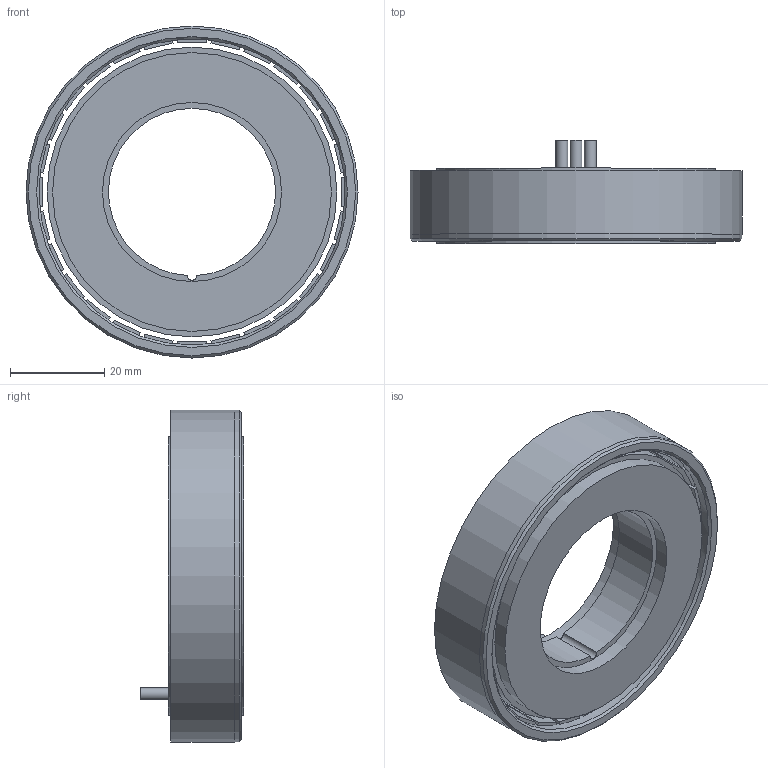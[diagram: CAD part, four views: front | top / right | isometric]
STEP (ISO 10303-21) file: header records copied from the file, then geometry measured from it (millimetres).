
FILE_DESCRIPTION (( 'STEP AP214' ), '1' );
FILE_NAME ('RO60-KV115-lite.STEP', '2024-03-15T05:51:52', ( '微软用户' ), ( '微软中国' ), 'SwSTEP 2.0', 'SolidWorks 2020', '' );
FILE_SCHEMA (( 'AUTOMOTIVE_DESIGN' ));
Length unit declared in the file: millimetre
Products named in the file (1): RO60-KV115-lite
Bounding box: 70.5 x 22 x 70.5 mm (x, y, z)
Surface area: 20746.8 mm2 (no closed solid volume)
Topology: 0 solids, 31 shells, 168 faces, 501 edges, 372 vertices
Faces by surface type: plane 151, cylinder 14, cone 3
Full cylindrical faces by diameter (mm): 2.5 x3, 38 x2, 59.2 x2, 61.5 x1, 65 x1, 67.8 x1, 70.5 x2
Entity records: 7256 total; most frequent: CARTESIAN_POINT 1015, DIRECTION 904, ORIENTED_EDGE 733, EDGE_CURVE 480, LINE 394, VECTOR 394, VERTEX_POINT 366, AXIS2_PLACEMENT_3D 255
